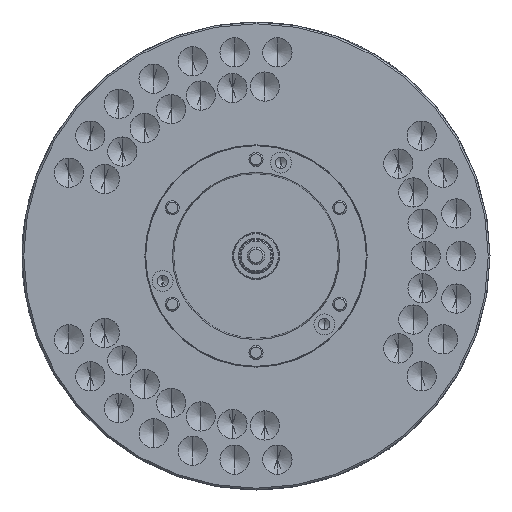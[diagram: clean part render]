
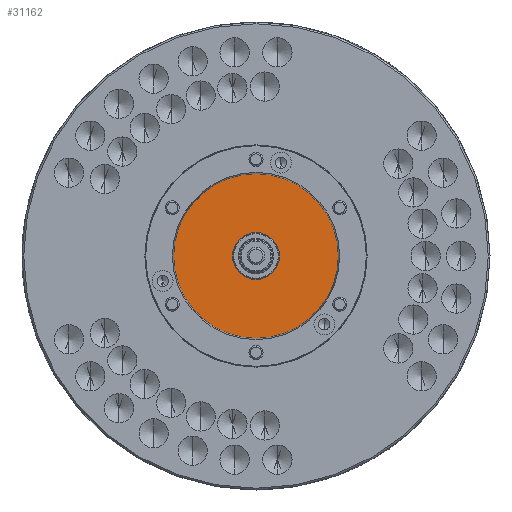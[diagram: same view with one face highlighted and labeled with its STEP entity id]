
A CAD part, left-side view. The second image highlights one B-rep face of the part: STEP entity #31162.
In plain terms, the highlighted planar face has unit normal (-1, 0, 0) as drawn and (0, 0, -1) by its records, which use the part's own axes.
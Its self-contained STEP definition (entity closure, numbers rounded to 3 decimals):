
#1151 = ORIENTED_EDGE ( 'NONE', *, *, #22374, .T. ) ;
#4703 = DIRECTION ( 'NONE',  ( 1., 0., 0. ) ) ;
#6241 = PLANE ( 'NONE',  #89540 ) ;
#8639 = VERTEX_POINT ( 'NONE', #100208 ) ;
#10653 = VERTEX_POINT ( 'NONE', #46991 ) ;
#17875 = CARTESIAN_POINT ( 'NONE',  ( 0., -140.7, -145. ) ) ;
#18390 = DIRECTION ( 'NONE',  ( 0., 0., 1. ) ) ;
#22374 = EDGE_CURVE ( 'NONE', #29036, #73056, #67672, .T. ) ;
#25118 = FACE_OUTER_BOUND ( 'NONE', #131408, .T. ) ;
#25254 = AXIS2_PLACEMENT_3D ( 'NONE', #148358, #76605, #4703 ) ;
#25540 = CIRCLE ( 'NONE', #71345, 140.7 ) ;
#29036 = VERTEX_POINT ( 'NONE', #131086 ) ;
#31069 = EDGE_CURVE ( 'NONE', #73056, #29036, #72017, .T. ) ;
#31162 = ADVANCED_FACE ( 'NONE', ( #25118, #56947 ), #6241, .F. ) ;
#34856 = EDGE_LOOP ( 'NONE', ( #1151, #61822 ) ) ;
#39556 = ORIENTED_EDGE ( 'NONE', *, *, #40540, .F. ) ;
#40540 = EDGE_CURVE ( 'NONE', #8639, #10653, #25540, .T. ) ;
#45230 = CARTESIAN_POINT ( 'NONE',  ( 0., 0., -145. ) ) ;
#46991 = CARTESIAN_POINT ( 'NONE',  ( -140.7, 0., -145. ) ) ;
#49179 = DIRECTION ( 'NONE',  ( 0., 0., 1. ) ) ;
#56947 = FACE_BOUND ( 'NONE', #34856, .T. ) ;
#57226 = DIRECTION ( 'NONE',  ( 1., 0., 0. ) ) ;
#61618 = ORIENTED_EDGE ( 'NONE', *, *, #62008, .F. ) ;
#61822 = ORIENTED_EDGE ( 'NONE', *, *, #31069, .T. ) ;
#61891 = CARTESIAN_POINT ( 'NONE',  ( 0., 0., -145. ) ) ;
#62008 = EDGE_CURVE ( 'NONE', #10653, #8639, #94738, .T. ) ;
#62598 = AXIS2_PLACEMENT_3D ( 'NONE', #61891, #145724, #73961 ) ;
#67672 = CIRCLE ( 'NONE', #139705, 40. ) ;
#71345 = AXIS2_PLACEMENT_3D ( 'NONE', #45230, #129050, #57226 ) ;
#72017 = CIRCLE ( 'NONE', #25254, 40. ) ;
#73056 = VERTEX_POINT ( 'NONE', #100290 ) ;
#73961 = DIRECTION ( 'NONE',  ( 1., 0., 0. ) ) ;
#76605 = DIRECTION ( 'NONE',  ( 0., 0., 1. ) ) ;
#89540 = AXIS2_PLACEMENT_3D ( 'NONE', #17875, #18390, #102220 ) ;
#94738 = CIRCLE ( 'NONE', #62598, 140.7 ) ;
#100208 = CARTESIAN_POINT ( 'NONE',  ( 140.7, 0., -145. ) ) ;
#100290 = CARTESIAN_POINT ( 'NONE',  ( -40., 0., -145. ) ) ;
#102220 = DIRECTION ( 'NONE',  ( 1., 0., 0. ) ) ;
#120977 = CARTESIAN_POINT ( 'NONE',  ( 0., 0., -145. ) ) ;
#129050 = DIRECTION ( 'NONE',  ( 0., 0., 1. ) ) ;
#131086 = CARTESIAN_POINT ( 'NONE',  ( 40., 0., -145. ) ) ;
#131408 = EDGE_LOOP ( 'NONE', ( #39556, #61618 ) ) ;
#133000 = DIRECTION ( 'NONE',  ( 1., 0., 0. ) ) ;
#139705 = AXIS2_PLACEMENT_3D ( 'NONE', #120977, #49179, #133000 ) ;
#145724 = DIRECTION ( 'NONE',  ( 0., 0., 1. ) ) ;
#148358 = CARTESIAN_POINT ( 'NONE',  ( 0., 0., -145. ) ) ;
